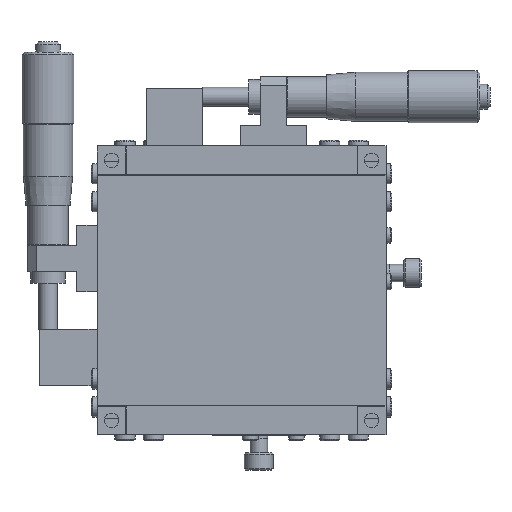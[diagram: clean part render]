
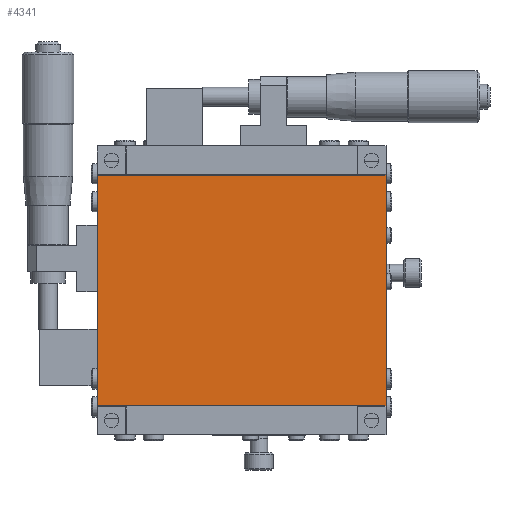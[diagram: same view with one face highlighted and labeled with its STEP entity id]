
A CAD part, front view. The second image highlights one B-rep face of the part: STEP entity #4341.
In plain terms, the highlighted planar face has unit normal (0, -1, 0).
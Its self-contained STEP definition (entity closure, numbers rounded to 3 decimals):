
#3974 = VERTEX_POINT ( 'NONE', #10662 ) ;
#3976 = ORIENTED_EDGE ( 'NONE', *, *, #3978, .F. ) ;
#3978 = EDGE_CURVE ( 'NONE', #36405, #3974, #10400, .T. ) ;
#3984 = VERTEX_POINT ( 'NONE', #10361 ) ;
#3988 = EDGE_CURVE ( 'NONE', #36565, #3984, #10351, .T. ) ;
#4231 = ORIENTED_EDGE ( 'NONE', *, *, #36564, .T. ) ;
#4233 = ORIENTED_EDGE ( 'NONE', *, *, #3988, .T. ) ;
#4331 = EDGE_LOOP ( 'NONE', ( #4343, #3976, #4231, #4233 ) ) ;
#4341 = ADVANCED_FACE ( 'NONE', ( #11992 ), #11988, .T. ) ;
#4343 = ORIENTED_EDGE ( 'NONE', *, *, #4345, .F. ) ;
#4345 = EDGE_CURVE ( 'NONE', #3974, #3984, #11976, .T. ) ;
#10347 = DIRECTION ( 'NONE',  ( -1., 0., 0. ) ) ;
#10348 = VECTOR ( 'NONE', #10347, 1000. ) ;
#10350 = CARTESIAN_POINT ( 'NONE',  ( 50., 0.3, 39.9 ) ) ;
#10351 = LINE ( 'NONE', #10350, #10348 ) ;
#10361 = CARTESIAN_POINT ( 'NONE',  ( -50., 0.3, 39.9 ) ) ;
#10393 = DIRECTION ( 'NONE',  ( -1., 0., 0. ) ) ;
#10395 = VECTOR ( 'NONE', #10393, 1000. ) ;
#10399 = CARTESIAN_POINT ( 'NONE',  ( 50., 0.3, -39.9 ) ) ;
#10400 = LINE ( 'NONE', #10399, #10395 ) ;
#10662 = CARTESIAN_POINT ( 'NONE',  ( -50., 0.3, -39.9 ) ) ;
#11971 = DIRECTION ( 'NONE',  ( 0., 0., 1. ) ) ;
#11972 = VECTOR ( 'NONE', #11971, 1000. ) ;
#11974 = CARTESIAN_POINT ( 'NONE',  ( -50., 0.3, -83.915 ) ) ;
#11976 = LINE ( 'NONE', #11974, #11972 ) ;
#11979 = DIRECTION ( 'NONE',  ( 0., 0., -1. ) ) ;
#11980 = DIRECTION ( 'NONE',  ( 0., -1., 0. ) ) ;
#11981 = CARTESIAN_POINT ( 'NONE',  ( 50., 0.3, -83.915 ) ) ;
#11983 = AXIS2_PLACEMENT_3D ( 'NONE', #11981, #11980, #11979 ) ;
#11988 = PLANE ( 'NONE',  #11983 ) ;
#11992 = FACE_OUTER_BOUND ( 'NONE', #4331, .T. ) ;
#31018 = CARTESIAN_POINT ( 'NONE',  ( 50., 0.3, -39.9 ) ) ;
#31157 = LINE ( 'NONE', #32059, #32074 ) ;
#31550 = CARTESIAN_POINT ( 'NONE',  ( 50., 0.3, 39.9 ) ) ;
#32059 = CARTESIAN_POINT ( 'NONE',  ( 50., 0.3, -83.915 ) ) ;
#32062 = DIRECTION ( 'NONE',  ( 0., 0., 1. ) ) ;
#32074 = VECTOR ( 'NONE', #32062, 1000. ) ;
#36405 = VERTEX_POINT ( 'NONE', #31018 ) ;
#36564 = EDGE_CURVE ( 'NONE', #36405, #36565, #31157, .T. ) ;
#36565 = VERTEX_POINT ( 'NONE', #31550 ) ;
